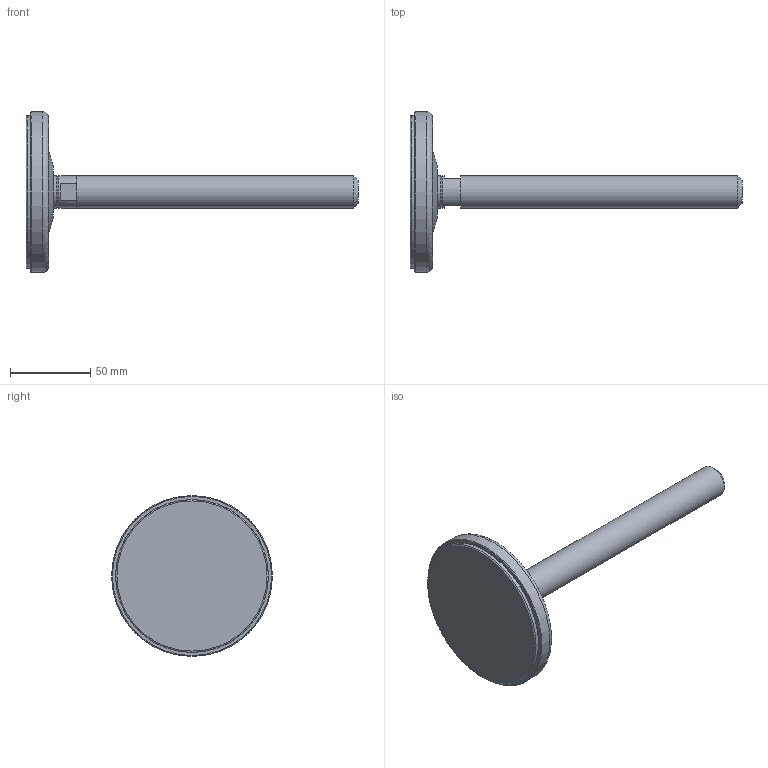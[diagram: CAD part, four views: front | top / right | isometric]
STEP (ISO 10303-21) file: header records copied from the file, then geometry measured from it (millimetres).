
FILE_DESCRIPTION(('STEP AP203'),'2;1');
FILE_NAME('15214-G.stp','2015-10-01T07:21:10',(''),(''),'2008.1.107','THINKDESIGN','');
FILE_SCHEMA(('CONFIG_CONTROL_DESIGN'));
Length unit declared in the file: millimetre
Bounding box: 206.5 x 100 x 100 mm (x, y, z)
Volume: 165884.1 mm3; surface area: 49293.5 mm2
Topology: 5 solids, 5 shells, 37 faces, 94 edges, 71 vertices
Faces by surface type: plane 17, bspline 11, cylinder 9
Full cylindrical faces by diameter (mm): 12.5 x2, 14.7 x1, 20 x3, 95 x2, 100 x1
Entity records: 2296 total; most frequent: CARTESIAN_POINT 1153, DIRECTION 216, ORIENTED_EDGE 186, AXIS2_PLACEMENT_3D 96, EDGE_CURVE 93, CIRCLE 70, VERTEX_POINT 69, EDGE_LOOP 46
